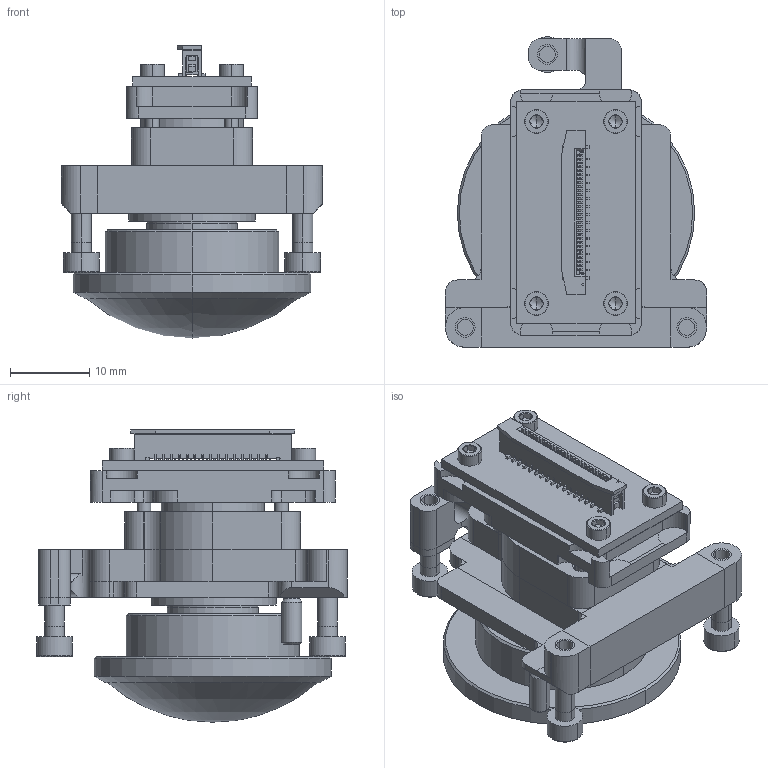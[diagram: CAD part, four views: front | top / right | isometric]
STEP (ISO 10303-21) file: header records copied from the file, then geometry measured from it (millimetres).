
FILE_DESCRIPTION(/* description */ ('VariCAD 2010-3.03 AP-214'),/* implementation_level */ '2;1');
FILE_NAME(/* name */ '0353-07-24',/* time_stamp */ '2011-01-21T13:52:06-07:00',/* author */ (''),/* organization */ (''),/* preprocessor_version */ 'ST-DEVELOPER v12',/* originating_system */ 'VariCAD 2010-3.03; kernel version (20100102)',/* authorisation */ '');
FILE_SCHEMA (('AUTOMOTIVE_DESIGN'));
Products named in the file (1): Part
Bounding box: 33 x 39.25 x 36.95 mm (x, y, z)
Volume: 13567 mm3; surface area: 15172.5 mm2
Topology: 53 solids, 53 shells, 2613 faces, 7444 edges, 4791 vertices
Faces by surface type: plane 1837, cylinder 550, cone 208, torus 14, sphere 4
Entity records: 92082 total; most frequent: CARTESIAN_POINT 15692, ORIENTED_EDGE 14844, DIRECTION 13893, EDGE_CURVE 7422, LINE 5971, VECTOR 5971, VERTEX_POINT 4791, AXIS2_PLACEMENT_3D 3961
